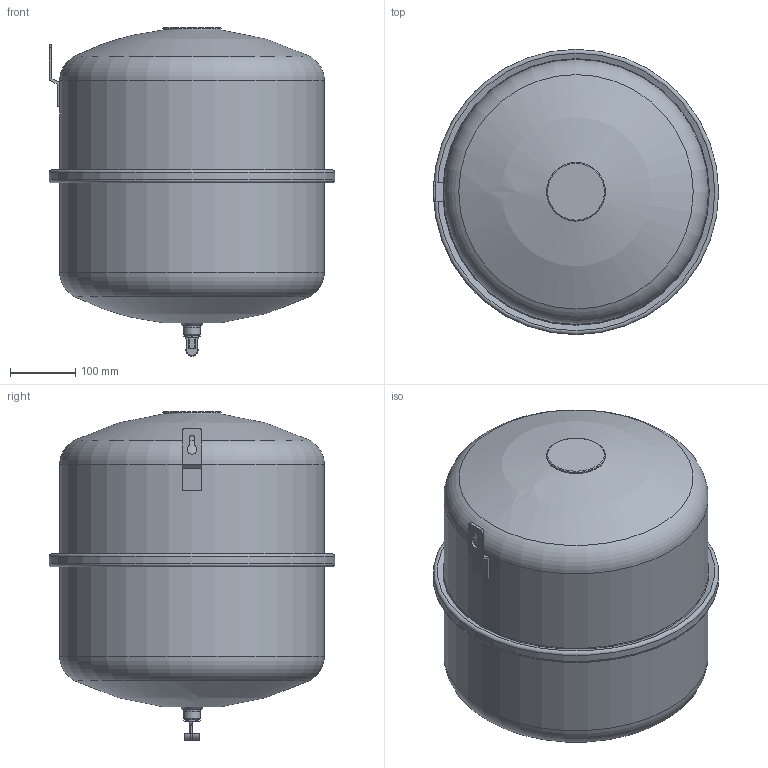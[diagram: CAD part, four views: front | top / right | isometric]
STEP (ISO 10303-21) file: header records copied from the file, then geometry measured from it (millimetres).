
FILE_DESCRIPTION(/* description */ (''),/* implementation_level */ '2;1');
FILE_NAME(/* name */ '\\dataserver\data\Flamco\3D-Modellen\Inventor\Airfix\Airfix A\24749_airfix_a_50l_8_4.stp',/* time_stamp */ '2025-03-17T13:50:46+01:00',/* author */ ('kasius'),/* organization */ (''),/* preprocessor_version */ 'ST-DEVELOPER v18.1',/* originating_system */ 'Autodesk Inventor 2021',/* authorisation */ '');
FILE_SCHEMA (('AUTOMOTIVE_DESIGN { 1 0 10303 214 3 1 1 }'));
Length unit declared in the file: millimetre
Products named in the file (1): 24749_airfix_a_50l_8_4
Bounding box: 437 x 437 x 502.56 mm (x, y, z)
Volume: 51609351.3 mm3; surface area: 779362.2 mm2
Topology: 3 solids, 3 shells, 132 faces, 367 edges, 249 vertices
Faces by surface type: plane 92, cylinder 21, cone 9, torus 8, sphere 2
Full cylindrical faces by diameter (mm): 7 x1, 8.8 x1, 9 x1, 12.5 x1, 16 x1, 18 x1, 20.8 x1, 26 x1, 90 x1, 405 x2, 437 x1
Entity records: 4356 total; most frequent: DIRECTION 758, CARTESIAN_POINT 749, ORIENTED_EDGE 734, EDGE_CURVE 367, AXIS2_PLACEMENT_3D 258, VERTEX_POINT 249, LINE 242, VECTOR 242
